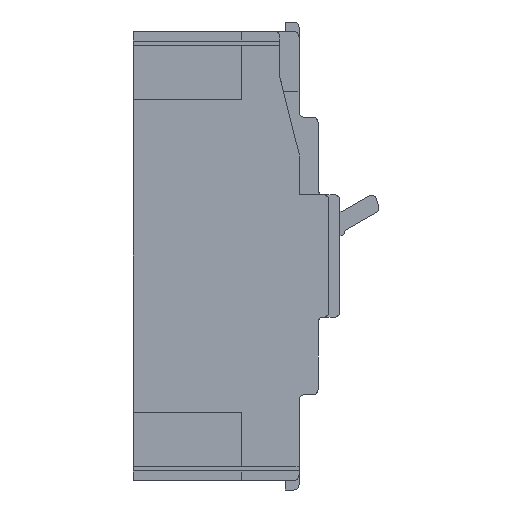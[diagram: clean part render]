
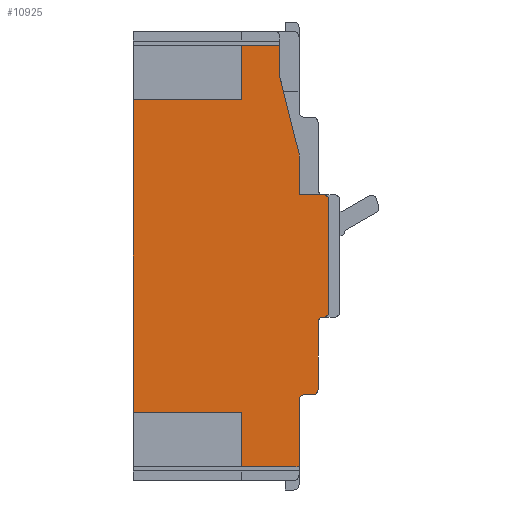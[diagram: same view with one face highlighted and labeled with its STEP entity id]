
A CAD part, left-side view. The second image highlights one B-rep face of the part: STEP entity #10925.
In plain terms, the highlighted planar face has unit normal (-1, 0, 0).
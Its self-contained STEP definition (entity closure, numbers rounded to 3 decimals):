
#44=CARTESIAN_POINT('',(-52.5,-39.5,-20.5));
#45=DIRECTION('',(-1.,0.,0.));
#46=DIRECTION('',(0.,0.,-1.));
#47=AXIS2_PLACEMENT_3D('',#44,#45,#46);
#49=DIRECTION('',(0.,0.,-1.));
#50=VECTOR('',#49,24.5);
#51=CARTESIAN_POINT('',(-52.5,-37.5,-24.5));
#52=LINE('',#51,#50);
#53=CARTESIAN_POINT('',(-52.5,-35.5,-49.));
#54=DIRECTION('',(-1.,0.,0.));
#55=DIRECTION('',(0.,0.,-1.));
#56=AXIS2_PLACEMENT_3D('',#53,#54,#55);
#58=DIRECTION('',(0.,1.,0.));
#59=VECTOR('',#58,3.);
#60=CARTESIAN_POINT('',(-52.5,-35.5,-51.));
#61=LINE('',#60,#59);
#62=DIRECTION('',(0.,0.,-1.));
#63=VECTOR('',#62,24.5);
#64=CARTESIAN_POINT('',(-52.5,-30.5,-53.));
#65=LINE('',#64,#63);
#66=DIRECTION('',(0.,-1.,0.));
#67=VECTOR('',#66,21.);
#68=CARTESIAN_POINT('',(-52.5,-9.5,-77.5));
#69=LINE('',#68,#67);
#70=DIRECTION('',(0.,0.,1.));
#71=VECTOR('',#70,20.);
#72=CARTESIAN_POINT('',(-52.5,-9.5,-77.5));
#73=LINE('',#72,#71);
#74=DIRECTION('',(0.,-1.,0.));
#75=VECTOR('',#74,40.);
#76=CARTESIAN_POINT('',(-52.5,30.5,-57.5));
#77=LINE('',#76,#75);
#78=DIRECTION('',(0.,0.,1.));
#79=VECTOR('',#78,115.);
#80=CARTESIAN_POINT('',(-52.5,30.5,-57.5));
#81=LINE('',#80,#79);
#82=DIRECTION('',(0.,-1.,0.));
#83=VECTOR('',#82,40.);
#84=CARTESIAN_POINT('',(-52.5,30.5,57.5));
#85=LINE('',#84,#83);
#86=DIRECTION('',(0.,0.,-1.));
#87=VECTOR('',#86,20.);
#88=CARTESIAN_POINT('',(-52.5,-9.5,77.5));
#89=LINE('',#88,#87);
#90=DIRECTION('',(0.,-1.,0.));
#91=VECTOR('',#90,14.);
#92=CARTESIAN_POINT('',(-52.5,-9.5,77.5));
#93=LINE('',#92,#91);
#94=DIRECTION('',(0.,0.,-1.));
#95=VECTOR('',#94,12.);
#96=CARTESIAN_POINT('',(-52.5,-23.5,77.5));
#97=LINE('',#96,#95);
#98=DIRECTION('',(0.,0.243,0.97));
#99=VECTOR('',#98,28.862);
#100=CARTESIAN_POINT('',(-52.5,-30.5,37.5));
#101=LINE('',#100,#99);
#102=DIRECTION('',(0.,0.,1.));
#103=VECTOR('',#102,15.);
#104=CARTESIAN_POINT('',(-52.5,-30.5,22.5));
#105=LINE('',#104,#103);
#106=CARTESIAN_POINT('',(-52.5,-39.5,20.5));
#107=DIRECTION('',(-1.,0.,0.));
#108=DIRECTION('',(0.,-1.,0.));
#109=AXIS2_PLACEMENT_3D('',#106,#107,#108);
#111=DIRECTION('',(0.,0.,-1.));
#112=VECTOR('',#111,41.);
#113=CARTESIAN_POINT('',(-52.5,-41.5,20.5));
#114=LINE('',#113,#112);
#2234=DIRECTION('',(0.,1.,0.));
#2235=VECTOR('',#2234,9.);
#2236=CARTESIAN_POINT('',(-52.5,-39.5,22.5));
#2237=LINE('',#2236,#2235);
#7293=CARTESIAN_POINT('',(-52.5,-39.5,-24.5));
#7294=DIRECTION('',(1.,0.,0.));
#7295=DIRECTION('',(0.,1.,0.));
#7296=AXIS2_PLACEMENT_3D('',#7293,#7294,#7295);
#7546=CARTESIAN_POINT('',(-52.5,-32.5,-53.));
#7547=DIRECTION('',(1.,0.,0.));
#7548=DIRECTION('',(0.,1.,0.));
#7549=AXIS2_PLACEMENT_3D('',#7546,#7547,#7548);
#9296=CARTESIAN_POINT('',(-52.5,-30.5,-77.5));
#9297=VERTEX_POINT('',#9296);
#9634=CARTESIAN_POINT('',(-52.5,-30.5,22.5));
#9635=VERTEX_POINT('',#9634);
#9636=CARTESIAN_POINT('',(-52.5,-30.5,37.5));
#9637=VERTEX_POINT('',#9636);
#9638=CARTESIAN_POINT('',(-52.5,-23.5,65.5));
#9640=VERTEX_POINT('',#9638);
#9642=CARTESIAN_POINT('',(-52.5,-23.5,77.5));
#9643=VERTEX_POINT('',#9642);
#9858=CARTESIAN_POINT('',(-52.5,-9.5,-57.5));
#9859=VERTEX_POINT('',#9858);
#9860=CARTESIAN_POINT('',(-52.5,-9.5,57.5));
#9861=VERTEX_POINT('',#9860);
#9862=CARTESIAN_POINT('',(-52.5,30.5,-57.5));
#9863=VERTEX_POINT('',#9862);
#9868=CARTESIAN_POINT('',(-52.5,-9.5,-77.5));
#9869=VERTEX_POINT('',#9868);
#9874=CARTESIAN_POINT('',(-52.5,-9.5,77.5));
#9875=VERTEX_POINT('',#9874);
#9876=CARTESIAN_POINT('',(-52.5,30.5,57.5));
#9877=VERTEX_POINT('',#9876);
#10006=CARTESIAN_POINT('',(-52.5,-37.5,-24.5));
#10008=VERTEX_POINT('',#10006);
#10122=CARTESIAN_POINT('',(-52.5,-30.5,-53.));
#10124=VERTEX_POINT('',#10122);
#10126=CARTESIAN_POINT('',(-52.5,-32.5,-51.));
#10128=VERTEX_POINT('',#10126);
#10138=CARTESIAN_POINT('',(-52.5,-39.5,-22.5));
#10139=CARTESIAN_POINT('',(-52.5,-41.5,-20.5));
#10140=VERTEX_POINT('',#10138);
#10141=VERTEX_POINT('',#10139);
#10154=CARTESIAN_POINT('',(-52.5,-41.5,20.5));
#10156=VERTEX_POINT('',#10154);
#10158=CARTESIAN_POINT('',(-52.5,-39.5,22.5));
#10159=VERTEX_POINT('',#10158);
#10182=CARTESIAN_POINT('',(-52.5,-35.5,-51.));
#10183=CARTESIAN_POINT('',(-52.5,-37.5,-49.));
#10184=VERTEX_POINT('',#10182);
#10185=VERTEX_POINT('',#10183);
#10878=CARTESIAN_POINT('',(-52.5,0.,0.));
#10879=DIRECTION('',(1.,0.,0.));
#10880=DIRECTION('',(0.,-1.,0.));
#10881=AXIS2_PLACEMENT_3D('',#10878,#10879,#10880);
#10882=PLANE('',#10881);
#10884=ORIENTED_EDGE('',*,*,#10883,.F.);
#10886=ORIENTED_EDGE('',*,*,#10885,.F.);
#10888=ORIENTED_EDGE('',*,*,#10887,.T.);
#10890=ORIENTED_EDGE('',*,*,#10889,.F.);
#10892=ORIENTED_EDGE('',*,*,#10891,.T.);
#10894=ORIENTED_EDGE('',*,*,#10893,.F.);
#10896=ORIENTED_EDGE('',*,*,#10895,.T.);
#10898=ORIENTED_EDGE('',*,*,#10897,.F.);
#10900=ORIENTED_EDGE('',*,*,#10899,.T.);
#10902=ORIENTED_EDGE('',*,*,#10901,.F.);
#10904=ORIENTED_EDGE('',*,*,#10903,.T.);
#10906=ORIENTED_EDGE('',*,*,#10905,.T.);
#10908=ORIENTED_EDGE('',*,*,#10907,.F.);
#10910=ORIENTED_EDGE('',*,*,#10909,.T.);
#10912=ORIENTED_EDGE('',*,*,#10911,.T.);
#10914=ORIENTED_EDGE('',*,*,#10913,.F.);
#10916=ORIENTED_EDGE('',*,*,#10915,.F.);
#10918=ORIENTED_EDGE('',*,*,#10917,.F.);
#10920=ORIENTED_EDGE('',*,*,#10919,.F.);
#10922=ORIENTED_EDGE('',*,*,#10921,.T.);
#10923=EDGE_LOOP('',(#10884,#10886,#10888,#10890,#10892,#10894,#10896,#10898,
#10900,#10902,#10904,#10906,#10908,#10910,#10912,#10914,#10916,#10918,#10920,
#10922));
#10924=FACE_OUTER_BOUND('',#10923,.F.);
#48=CIRCLE('',#47,2.);
#57=CIRCLE('',#56,2.);
#110=CIRCLE('',#109,2.);
#7297=CIRCLE('',#7296,2.);
#7550=CIRCLE('',#7549,2.);
#10883=EDGE_CURVE('',#10140,#10141,#48,.T.);
#10885=EDGE_CURVE('',#10008,#10140,#7297,.T.);
#10887=EDGE_CURVE('',#10008,#10185,#52,.T.);
#10889=EDGE_CURVE('',#10184,#10185,#57,.T.);
#10891=EDGE_CURVE('',#10184,#10128,#61,.T.);
#10893=EDGE_CURVE('',#10124,#10128,#7550,.T.);
#10895=EDGE_CURVE('',#10124,#9297,#65,.T.);
#10897=EDGE_CURVE('',#9869,#9297,#69,.T.);
#10899=EDGE_CURVE('',#9869,#9859,#73,.T.);
#10901=EDGE_CURVE('',#9863,#9859,#77,.T.);
#10903=EDGE_CURVE('',#9863,#9877,#81,.T.);
#10905=EDGE_CURVE('',#9877,#9861,#85,.T.);
#10907=EDGE_CURVE('',#9875,#9861,#89,.T.);
#10909=EDGE_CURVE('',#9875,#9643,#93,.T.);
#10911=EDGE_CURVE('',#9643,#9640,#97,.T.);
#10913=EDGE_CURVE('',#9637,#9640,#101,.T.);
#10915=EDGE_CURVE('',#9635,#9637,#105,.T.);
#10917=EDGE_CURVE('',#10159,#9635,#2237,.T.);
#10919=EDGE_CURVE('',#10156,#10159,#110,.T.);
#10921=EDGE_CURVE('',#10156,#10141,#114,.T.);
#10925=ADVANCED_FACE('',(#10924),#10882,.F.);
